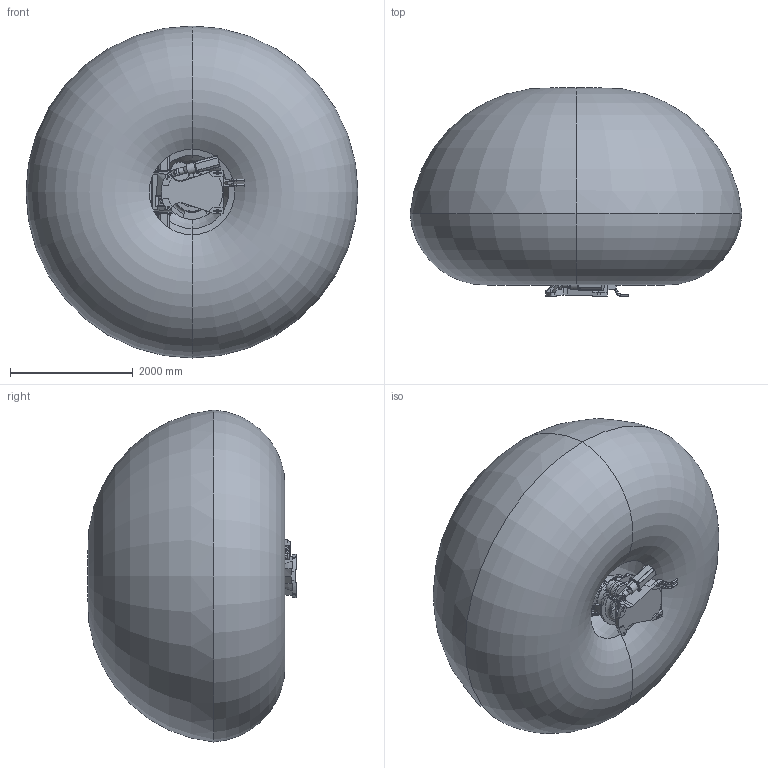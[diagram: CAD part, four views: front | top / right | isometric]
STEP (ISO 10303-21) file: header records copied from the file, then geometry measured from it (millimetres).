
FILE_DESCRIPTION (( 'STEP AP214' ), '1' );
FILE_NAME ('SMART NJ 370-2.7 (3D-STEP).STEP', '2008-10-07T07:18:00', ( 'Comau' ), ( 'Comau S.p.A.' ), 'SwSTEP 2.0', 'SolidWorks 2005235', '' );
FILE_SCHEMA (( 'AUTOMOTIVE_DESIGN' ));
Length unit declared in the file: millimetre
Products named in the file (19): SMART NJ 370-2.7_P16; SMART NJ 370-2.7_P15; SMART NJ 370-2.7_P14; SMART NJ 370-2.7_P13; SMART NJ 370-2.7_CR82309760_LAFERT-SM; SMART NJ 370-2.7_CR82309740_LAFERT-SM; Operation area SMART NJ-370-2,7; SMART NJ 370-2.7_P02; SMART NJ 370-2.7_P01; SMART NJ 370-2.7 (3D-STEP); SMART NJ 370-2.7_P06; SMART NJ 370-2.7_P05; SMART NJ 370-2.7_P04; SMART NJ 370-2.7_P03; SMART NJ 370-2.7_P08; SMART NJ 370-2.7_P10; SMART NJ 370-2.7_P09; SMART NJ 370-2.7_P12; SMART NJ 370-2.7_P11
Assembly tree (22 placements, depth 2):
  SMART NJ 370-2.7 (3D-STEP)
    SMART NJ 370-2.7_P05
    SMART NJ 370-2.7_P13
    Operation area SMART NJ-370-2,7
    SMART NJ 370-2.7_P15
    SMART NJ 370-2.7_P03
    SMART NJ 370-2.7_CR82309740_LAFERT-SM  x3
    SMART NJ 370-2.7_P12
    SMART NJ 370-2.7_P11
    SMART NJ 370-2.7_P06
    SMART NJ 370-2.7_CR82309760_LAFERT-SM  x3
    SMART NJ 370-2.7_P14
    SMART NJ 370-2.7_P16
    SMART NJ 370-2.7_P10
    SMART NJ 370-2.7_P09
    SMART NJ 370-2.7_P01
    SMART NJ 370-2.7_P04
    SMART NJ 370-2.7_P02
    SMART NJ 370-2.7_P08
Bounding box: 5405.73 x 3390.35 x 5405.73 mm (x, y, z)
Volume: 48517900795.2 mm3; surface area: 104146264.3 mm2
Topology: 22 solids, 32 shells, 3706 faces, 9605 edges, 6052 vertices
Faces by surface type: plane 1666, cylinder 1385, bspline 240, torus 176, cone 158, sphere 81
Entity records: 133537 total; most frequent: CARTESIAN_POINT 42399, ORIENTED_EDGE 17834, DIRECTION 17561, EDGE_CURVE 8917, AXIS2_PLACEMENT_3D 6471, VERTEX_POINT 5678, VECTOR 4619, LINE 4619
